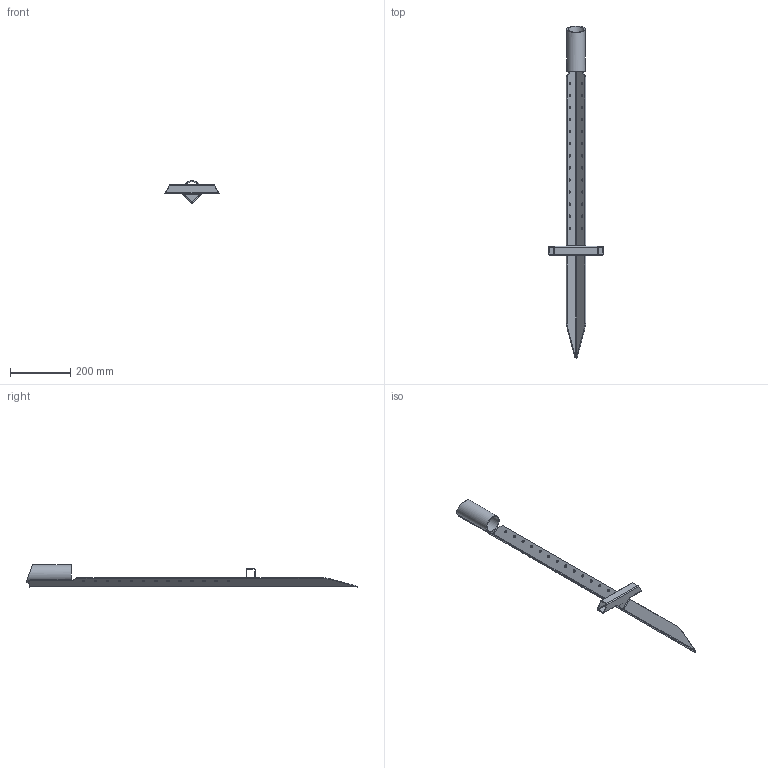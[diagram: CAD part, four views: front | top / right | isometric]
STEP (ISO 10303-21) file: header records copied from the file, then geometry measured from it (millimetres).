
FILE_DESCRIPTION (( 'STEP AP214' ), '1' );
FILE_NAME ('MONO_038-a200_02 - WELDED PART (REFERENCE ONLY).STEP', '2026-03-24T00:11:41', ( '' ), ( '' ), 'SwSTEP 2.0', 'SolidWorks 2024', '' );
FILE_SCHEMA (( 'AUTOMOTIVE_DESIGN' ));
Length unit declared in the file: millimetre
Products named in the file (1): MONO_038-a200_02 - WELDED PART (REFERENCE ONLY)
Bounding box: 180 x 1100.72 x 74.54 mm (x, y, z)
Volume: 394876.3 mm3; surface area: 259197.3 mm2
Topology: 1 solids, 3 shells, 136 faces, 385 edges, 251 vertices
Faces by surface type: cylinder 73, plane 40, bspline 15, torus 4, sphere 4
Full cylindrical faces by diameter (mm): 8 x26, 53.1 x1, 60.3 x1
Entity records: 4808 total; most frequent: CARTESIAN_POINT 1617, ORIENTED_EDGE 650, DIRECTION 606, EDGE_CURVE 325, AXIS2_PLACEMENT_3D 233, VERTEX_POINT 223, EDGE_LOOP 220, FACE_OUTER_BOUND 164
